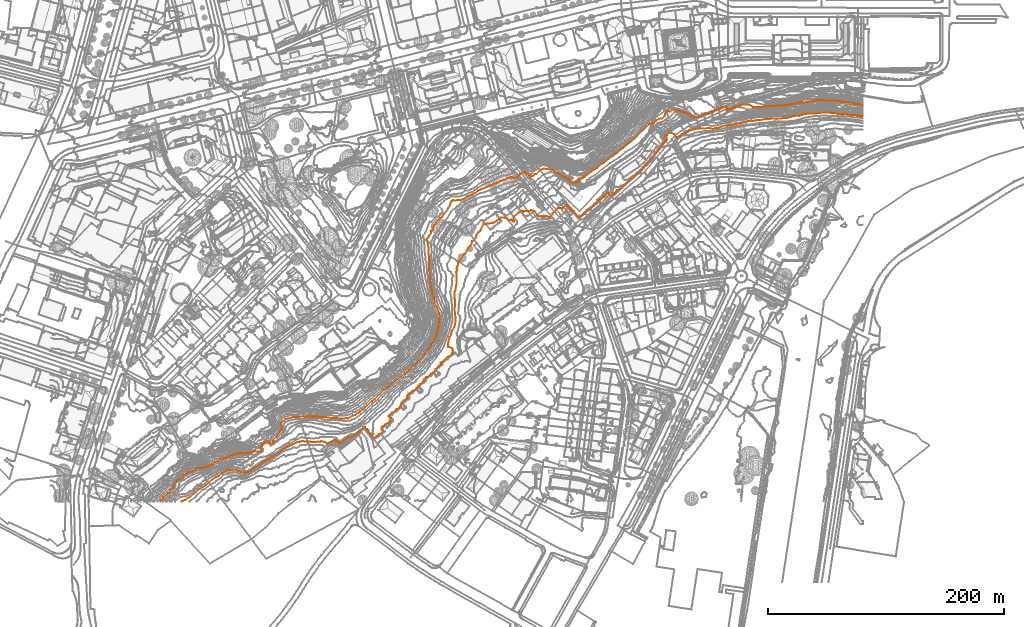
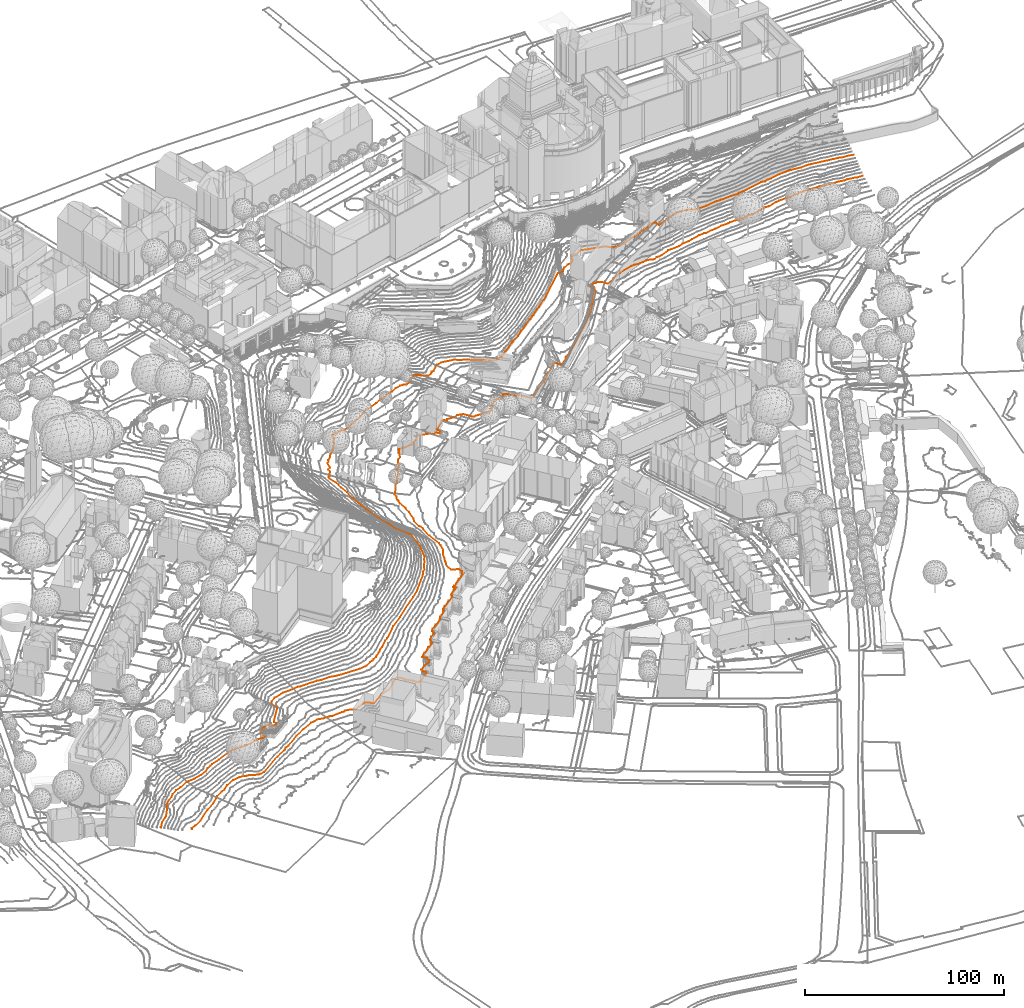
# Not in any storey, part 144 of 494: 2 proxies.
"""IFC2X3 model written with IfcOpenShell, lengths in metres."""

from ifc_helpers import new_model, entity, si_unit, frame, origin_with_axes, place, context, subcontext, project, element, save


model = new_model("IFC2X3")

# Units and contexts
model_context = context("Model", 3, precision=1e-05, world=origin_with_axes())
body_context = subcontext(model_context, "Body", "Model", "MODEL_VIEW")
ifc_project = project(units=[si_unit("AREAUNIT", "SQUARE_METRE"), si_unit("LENGTHUNIT", "METRE")], contexts=[model_context])

# Proxies
proxy_1_placement = place(None, frame((110.3940520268, -1.3292839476, 510.0), z_axis=(0.0, 0.0, 1.0), x_axis=(1.0, 0.0, 0.0)))
element("IfcBuildingElementProxy", 1, at=proxy_1_placement, Name="Contour Line 510.0 m", ObjectType="NOTDEFINED", context=body_context, shape_type="GeometricCurveSet", body=[
    entity("IfcGeometricCurveSet", [entity("IfcPolyline", [entity("IfcCartesianPoint", [577.7836799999, 326.7669789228, 0.0]), entity("IfcCartesianPoint", [574.2836799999, 326.7363557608, 0.0]), entity("IfcCartesianPoint", [573.2836799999, 327.2313932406, 0.0]), entity("IfcCartesianPoint", [569.2836799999, 327.7777656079, 0.0]), entity("IfcCartesianPoint", [567.2836799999, 327.7127699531, 0.0]), entity("IfcCartesianPoint", [564.2836799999, 328.3442526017, 0.0]), entity("IfcCartesianPoint", [556.2836799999, 328.6781323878, 0.0]), entity("IfcCartesianPoint", [554.2836799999, 329.5266267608, 0.0]), entity("IfcCartesianPoint", [551.2836799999, 329.3858442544, 0.0]), entity("IfcCartesianPoint", [548.2836799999, 329.7452839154, 0.0]), entity("IfcCartesianPoint", [543.2836799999, 329.7, 0.0]), entity("IfcCartesianPoint", [539.2836799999, 329.479507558, 0.0]), entity("IfcCartesianPoint", [537.2836799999, 328.9265868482, 0.0]), entity("IfcCartesianPoint", [530.2836799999, 328.789107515, 0.0]), entity("IfcCartesianPoint", [528.3040771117, 328.5, 0.0]), entity("IfcCartesianPoint", [523.2836799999, 327.066602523, 0.0]), entity("IfcCartesianPoint", [521.2836799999, 327.222120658, 0.0]), entity("IfcCartesianPoint", [518.2836799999, 326.7642361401, 0.0]), entity("IfcCartesianPoint", [513.2836799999, 325.1437253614, 0.0]), entity("IfcCartesianPoint", [511.2836799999, 325.0544992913, 0.0]), entity("IfcCartesianPoint", [510.2836799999, 325.4523024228, 0.0]), entity("IfcCartesianPoint", [508.2836799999, 324.7692546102, 0.0]), entity("IfcCartesianPoint", [506.2836799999, 324.5548365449, 0.0]), entity("IfcCartesianPoint", [505.2836799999, 324.789287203, 0.0]), entity("IfcCartesianPoint", [504.2836799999, 324.4523084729, 0.0]), entity("IfcCartesianPoint", [502.2836799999, 324.9163976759, 0.0]), entity("IfcCartesianPoint", [499.2836799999, 324.6900641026, 0.0]), entity("IfcCartesianPoint", [498.2836799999, 324.3695863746, 0.0]), entity("IfcCartesianPoint", [494.2836799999, 324.3192395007, 0.0]), entity("IfcCartesianPoint", [490.2836799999, 323.416148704, 0.0]), entity("IfcCartesianPoint", [487.2836799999, 323.2964714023, 0.0]), entity("IfcCartesianPoint", [484.2836799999, 322.6005133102, 0.0]), entity("IfcCartesianPoint", [483.2836799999, 322.9277991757, 0.0]), entity("IfcCartesianPoint", [480.2836799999, 322.5326086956, 0.0]), entity("IfcCartesianPoint", [475.4557765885, 321.5, 0.0]), entity("IfcCartesianPoint", [473.2836799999, 320.7614421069, 0.0]), entity("IfcCartesianPoint", [469.2836799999, 320.4181371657, 0.0]), entity("IfcCartesianPoint", [466.7329553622, 319.5, 0.0]), entity("IfcCartesianPoint", [462.2836799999, 318.9413965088, 0.0]), entity("IfcCartesianPoint", [460.2836799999, 318.9672734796, 0.0]), entity("IfcCartesianPoint", [455.2836799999, 316.9868456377, 0.0]), entity("IfcCartesianPoint", [453.2836799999, 316.5242144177, 0.0]), entity("IfcCartesianPoint", [452.2836799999, 316.7693165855, 0.0]), entity("IfcCartesianPoint", [450.2836799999, 315.6243574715, 0.0]), entity("IfcCartesianPoint", [448.2836799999, 316.4707380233, 0.0]), entity("IfcCartesianPoint", [446.2836799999, 316.835152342, 0.0]), entity("IfcCartesianPoint", [444.2836799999, 316.3807059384, 0.0]), entity("IfcCartesianPoint", [441.2836799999, 316.1952743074, 0.0]), entity("IfcCartesianPoint", [439.2836799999, 316.5044080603, 0.0]), entity("IfcCartesianPoint", [437.2836799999, 316.322696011, 0.0]), entity("IfcCartesianPoint", [430.2836799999, 314.5551996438, 0.0]), entity("IfcCartesianPoint", [429.2836799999, 313.6448474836, 0.0]), entity("IfcCartesianPoint", [424.2836799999, 311.633938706, 0.0]), entity("IfcCartesianPoint", [422.2836799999, 310.0085699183, 0.0]), entity("IfcCartesianPoint", [419.2836799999, 308.8155286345, 0.0]), entity("IfcCartesianPoint", [418.3800540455, 310.5, 0.0]), entity("IfcCartesianPoint", [417.2836799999, 311.5084341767, 0.0]), entity("IfcCartesianPoint", [415.2836799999, 312.6206305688, 0.0]), entity("IfcCartesianPoint", [414.2836799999, 312.4916080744, 0.0]), entity("IfcCartesianPoint", [413.2836799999, 312.764098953, 0.0]), entity("IfcCartesianPoint", [411.2836799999, 310.8616551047, 0.0]), entity("IfcCartesianPoint", [410.2008664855, 310.5, 0.0]), entity("IfcCartesianPoint", [410.2584948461, 309.5, 0.0]), entity("IfcCartesianPoint", [410.9462468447, 308.5, 0.0]), entity("IfcCartesianPoint", [410.9724845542, 307.5, 0.0]), entity("IfcCartesianPoint", [409.9808860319, 305.5, 0.0]), entity("IfcCartesianPoint", [408.2836799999, 303.7046351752, 0.0]), entity("IfcCartesianPoint", [403.6646736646, 297.5, 0.0]), entity("IfcCartesianPoint", [393.7689650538, 285.5, 0.0]), entity("IfcCartesianPoint", [389.2836799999, 281.1501439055, 0.0]), entity("IfcCartesianPoint", [377.2836799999, 270.2683984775, 0.0]), entity("IfcCartesianPoint", [370.2836799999, 264.460807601, 0.0]), entity("IfcCartesianPoint", [369.2836799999, 263.9375782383, 0.0]), entity("IfcCartesianPoint", [368.8121370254, 263.5, 0.0]), entity("IfcCartesianPoint", [368.4382099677, 262.5, 0.0]), entity("IfcCartesianPoint", [367.2836799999, 261.3862745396, 0.0]), entity("IfcCartesianPoint", [366.2836799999, 260.9708987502, 0.0]), entity("IfcCartesianPoint", [364.4357134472, 259.5, 0.0]), entity("IfcCartesianPoint", [363.3389468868, 259.5, 0.0]), entity("IfcCartesianPoint", [361.907327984, 261.5, 0.0]), entity("IfcCartesianPoint", [361.2836799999, 261.8848020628, 0.0]), entity("IfcCartesianPoint", [358.2836799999, 259.6830010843, 0.0]), entity("IfcCartesianPoint", [357.2836799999, 258.2333138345, 0.0]), entity("IfcCartesianPoint", [354.2836799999, 256.3672271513, 0.0]), entity("IfcCartesianPoint", [353.2836799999, 255.4839335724, 0.0]), entity("IfcCartesianPoint", [352.8657751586, 254.5, 0.0]), entity("IfcCartesianPoint", [348.651875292, 250.5, 0.0]), entity("IfcCartesianPoint", [343.2836799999, 246.6326606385, 0.0]), entity("IfcCartesianPoint", [337.6255837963, 241.5, 0.0]), entity("IfcCartesianPoint", [336.5901996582, 241.5, 0.0]), entity("IfcCartesianPoint", [335.2836799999, 242.1197017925, 0.0]), entity("IfcCartesianPoint", [332.2836799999, 246.0546306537, 0.0]), entity("IfcCartesianPoint", [329.9327809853, 247.5, 0.0]), entity("IfcCartesianPoint", [329.8483025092, 248.5, 0.0]), entity("IfcCartesianPoint", [328.2357803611, 249.5, 0.0]), entity("IfcCartesianPoint", [327.2836799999, 250.6387567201, 0.0]), entity("IfcCartesianPoint", [326.2836799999, 251.0521917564, 0.0]), entity("IfcCartesianPoint", [325.2836799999, 250.8266576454, 0.0]), entity("IfcCartesianPoint", [323.2836799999, 248.904403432, 0.0]), entity("IfcCartesianPoint", [322.2836799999, 248.5010464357, 0.0]), entity("IfcCartesianPoint", [320.2836799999, 249.0571441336, 0.0]), entity("IfcCartesianPoint", [319.2836799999, 248.9402390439, 0.0]), entity("IfcCartesianPoint", [318.642635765, 248.5, 0.0]), entity("IfcCartesianPoint", [314.5530472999, 244.5, 0.0]), entity("IfcCartesianPoint", [314.3068471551, 243.5, 0.0]), entity("IfcCartesianPoint", [312.2836799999, 241.3627997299, 0.0]), entity("IfcCartesianPoint", [311.2836799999, 241.191755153, 0.0]), entity("IfcCartesianPoint", [309.2836799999, 241.9187003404, 0.0]), entity("IfcCartesianPoint", [306.2836799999, 241.6917665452, 0.0]), entity("IfcCartesianPoint", [304.2836799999, 241.9492137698, 0.0]), entity("IfcCartesianPoint", [303.2836799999, 241.7278828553, 0.0]), entity("IfcCartesianPoint", [302.2836799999, 242.1807493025, 0.0]), entity("IfcCartesianPoint", [299.2836799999, 246.2684630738, 0.0]), entity("IfcCartesianPoint", [296.2836799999, 247.0476590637, 0.0]), entity("IfcCartesianPoint", [294.2836799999, 246.0580046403, 0.0]), entity("IfcCartesianPoint", [293.2836799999, 246.4304552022, 0.0]), entity("IfcCartesianPoint", [292.2836799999, 246.2491626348, 0.0]), entity("IfcCartesianPoint", [290.2836799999, 246.4360632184, 0.0]), entity("IfcCartesianPoint", [289.2836799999, 245.3019607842, 0.0]), entity("IfcCartesianPoint", [288.63953157, 246.5, 0.0]), entity("IfcCartesianPoint", [287.2836799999, 246.8208041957, 0.0]), entity("IfcCartesianPoint", [281.5077059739, 241.5, 0.0]), entity("IfcCartesianPoint", [281.3451554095, 240.5, 0.0]), entity("IfcCartesianPoint", [281.8093942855, 237.5, 0.0]), entity("IfcCartesianPoint", [281.2836799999, 237.2771197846, 0.0]), entity("IfcCartesianPoint", [280.2836799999, 238.3634204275, 0.0]), entity("IfcCartesianPoint", [279.2836799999, 238.9767844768, 0.0]), entity("IfcCartesianPoint", [278.2836799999, 238.5259879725, 0.0]), entity("IfcCartesianPoint", [277.2836799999, 238.7311155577, 0.0]), entity("IfcCartesianPoint", [276.2836799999, 239.9114502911, 0.0]), entity("IfcCartesianPoint", [272.2836799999, 240.9739934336, 0.0]), entity("IfcCartesianPoint", [271.2836799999, 240.9604374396, 0.0]), entity("IfcCartesianPoint", [270.2836799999, 240.7085462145, 0.0]), entity("IfcCartesianPoint", [269.2836799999, 240.0613516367, 0.0]), entity("IfcCartesianPoint", [267.2836799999, 238.2057826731, 0.0]), entity("IfcCartesianPoint", [264.2836799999, 236.3823067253, 0.0]), entity("IfcCartesianPoint", [259.2836799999, 235.6501711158, 0.0]), entity("IfcCartesianPoint", [258.2836799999, 235.8778004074, 0.0]), entity("IfcCartesianPoint", [256.2836799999, 235.7762333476, 0.0]), entity("IfcCartesianPoint", [255.8634116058, 235.5, 0.0]), entity("IfcCartesianPoint", [253.0965344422, 229.5, 0.0]), entity("IfcCartesianPoint", [251.2836799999, 228.2091656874, 0.0]), entity("IfcCartesianPoint", [250.1787381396, 226.5, 0.0]), entity("IfcCartesianPoint", [249.0941987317, 223.5, 0.0]), entity("IfcCartesianPoint", [247.2836799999, 221.4758928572, 0.0]), entity("IfcCartesianPoint", [246.2836799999, 220.9092465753, 0.0]), entity("IfcCartesianPoint", [245.6120382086, 218.5, 0.0]), entity("IfcCartesianPoint", [244.4227876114, 216.5, 0.0]), entity("IfcCartesianPoint", [243.1567807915, 215.5, 0.0]), entity("IfcCartesianPoint", [241.7228167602, 212.5, 0.0]), entity("IfcCartesianPoint", [240.3370090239, 210.5, 0.0]), entity("IfcCartesianPoint", [239.2836799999, 210.0264120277, 0.0]), entity("IfcCartesianPoint", [235.2836799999, 203.4226904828, 0.0]), entity("IfcCartesianPoint", [234.4561455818, 202.5, 0.0]), entity("IfcCartesianPoint", [234.3808540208, 200.5, 0.0]), entity("IfcCartesianPoint", [233.6906493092, 199.5, 0.0]), entity("IfcCartesianPoint", [233.1740274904, 197.5, 0.0]), entity("IfcCartesianPoint", [233.3512597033, 196.5, 0.0]), entity("IfcCartesianPoint", [232.8370220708, 194.5, 0.0]), entity("IfcCartesianPoint", [233.1739829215, 189.5, 0.0]), entity("IfcCartesianPoint", [233.0512440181, 185.5, 0.0]), entity("IfcCartesianPoint", [232.0480336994, 179.5, 0.0]), entity("IfcCartesianPoint", [231.3065682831, 177.5, 0.0]), entity("IfcCartesianPoint", [231.2415221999, 172.5, 0.0]), entity("IfcCartesianPoint", [231.6637897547, 171.5, 0.0]), entity("IfcCartesianPoint", [231.7655725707, 169.5, 0.0]), entity("IfcCartesianPoint", [231.4440615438, 162.5, 0.0]), entity("IfcCartesianPoint", [232.3314152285, 154.5, 0.0]), entity("IfcCartesianPoint", [232.1377025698, 152.5, 0.0]), entity("IfcCartesianPoint", [231.3691933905, 148.5, 0.0]), entity("IfcCartesianPoint", [229.2836799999, 145.156663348, 0.0]), entity("IfcCartesianPoint", [228.199764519, 141.5, 0.0]), entity("IfcCartesianPoint", [227.1342481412, 139.5, 0.0]), entity("IfcCartesianPoint", [227.0685223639, 138.5, 0.0]), entity("IfcCartesianPoint", [226.2505929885, 136.5, 0.0]), entity("IfcCartesianPoint", [225.778428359, 133.5, 0.0]), entity("IfcCartesianPoint", [225.9803436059, 131.5, 0.0]), entity("IfcCartesianPoint", [226.2836799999, 131.1812479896, 0.0]), entity("IfcCartesianPoint", [229.2836799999, 130.1188466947, 0.0]), entity("IfcCartesianPoint", [229.8392355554, 129.5, 0.0]), entity("IfcCartesianPoint", [229.7735426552, 128.5, 0.0]), entity("IfcCartesianPoint", [230.1971551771, 127.5, 0.0]), entity("IfcCartesianPoint", [229.2836799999, 126.5430906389, 0.0]), entity("IfcCartesianPoint", [229.2160609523, 125.5, 0.0]), entity("IfcCartesianPoint", [227.1802517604, 123.5, 0.0]), entity("IfcCartesianPoint", [225.7541426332, 122.5, 0.0]), entity("IfcCartesianPoint", [225.2836799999, 122.4936468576, 0.0]), entity("IfcCartesianPoint", [222.1785204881, 119.5, 0.0]), entity("IfcCartesianPoint", [220.7957223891, 118.5, 0.0]), entity("IfcCartesianPoint", [220.2836799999, 118.4831184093, 0.0]), entity("IfcCartesianPoint", [219.3129257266, 117.5, 0.0]), entity("IfcCartesianPoint", [220.2838059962, 116.5, 0.0]), entity("IfcCartesianPoint", [218.9630075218, 115.5, 0.0]), entity("IfcCartesianPoint", [218.2836799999, 115.4268913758, 0.0]), entity("IfcCartesianPoint", [215.2836799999, 112.514488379, 0.0]), entity("IfcCartesianPoint", [215.2784851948, 111.5, 0.0]), entity("IfcCartesianPoint", [214.2836799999, 110.1564495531, 0.0]), entity("IfcCartesianPoint", [211.8779609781, 108.5, 0.0]), entity("IfcCartesianPoint", [211.2836799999, 108.4904201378, 0.0]), entity("IfcCartesianPoint", [208.0333989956, 105.5, 0.0]), entity("IfcCartesianPoint", [207.2836799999, 105.4844258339, 0.0]), entity("IfcCartesianPoint", [205.2871901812, 103.5, 0.0]), entity("IfcCartesianPoint", [205.1739197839, 102.5, 0.0]), entity("IfcCartesianPoint", [204.2891312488, 101.5, 0.0]), entity("IfcCartesianPoint", [202.2577262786, 99.5, 0.0]), entity("IfcCartesianPoint", [200.7014263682, 98.5, 0.0]), entity("IfcCartesianPoint", [199.6037858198, 96.5, 0.0]), entity("IfcCartesianPoint", [199.2836799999, 96.4969447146, 0.0]), entity("IfcCartesianPoint", [196.2836799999, 93.7531486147, 0.0]), entity("IfcCartesianPoint", [195.2836799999, 93.4926540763, 0.0]), entity("IfcCartesianPoint", [194.2836802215, 92.5, 0.0]), entity("IfcCartesianPoint", [192.2836799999, 91.5734265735, 0.0]), entity("IfcCartesianPoint", [190.9119829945, 89.5, 0.0]), entity("IfcCartesianPoint", [191.1563712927, 88.5, 0.0]), entity("IfcCartesianPoint", [190.9825810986, 87.5, 0.0]), entity("IfcCartesianPoint", [188.2836799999, 85.7916160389, 0.0]), entity("IfcCartesianPoint", [186.2837290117, 83.5, 0.0]), entity("IfcCartesianPoint", [185.6187382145, 80.5, 0.0]), entity("IfcCartesianPoint", [185.2836799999, 80.4978298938, 0.0]), entity("IfcCartesianPoint", [183.1454358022, 78.5, 0.0]), entity("IfcCartesianPoint", [182.2836799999, 78.4473413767, 0.0]), entity("IfcCartesianPoint", [179.1796092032, 75.5, 0.0]), entity("IfcCartesianPoint", [178.2836799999, 75.4279286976, 0.0]), entity("IfcCartesianPoint", [175.3194162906, 72.5, 0.0]), entity("IfcCartesianPoint", [176.9561814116, 70.5, 0.0]), entity("IfcCartesianPoint", [176.8713445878, 68.5, 0.0]), entity("IfcCartesianPoint", [176.3095979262, 67.5, 0.0]), entity("IfcCartesianPoint", [175.1287943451, 66.5, 0.0]), entity("IfcCartesianPoint", [172.2836799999, 65.4991094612, 0.0]), entity("IfcCartesianPoint", [169.2836799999, 62.9692343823, 0.0]), entity("IfcCartesianPoint", [169.2933348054, 61.5, 0.0]), entity("IfcCartesianPoint", [170.2887345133, 60.5, 0.0]), entity("IfcCartesianPoint", [170.3627266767, 59.5, 0.0]), entity("IfcCartesianPoint", [168.2836799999, 57.4561320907, 0.0]), entity("IfcCartesianPoint", [167.2836799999, 57.3195591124, 0.0]), entity("IfcCartesianPoint", [165.4036402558, 55.5, 0.0]), entity("IfcCartesianPoint", [163.8027508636, 54.5, 0.0]), entity("IfcCartesianPoint", [163.2836799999, 54.2742641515, 0.0]), entity("IfcCartesianPoint", [162.2836799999, 54.3816979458, 0.0]), entity("IfcCartesianPoint", [161.0823064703, 56.5, 0.0]), entity("IfcCartesianPoint", [158.1637828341, 59.5, 0.0]), entity("IfcCartesianPoint", [157.1149885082, 61.5, 0.0]), entity("IfcCartesianPoint", [155.2836799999, 63.376478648, 0.0]), entity("IfcCartesianPoint", [154.2836799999, 63.0262282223, 0.0]), entity("IfcCartesianPoint", [150.2836799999, 59.0628554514, 0.0]), entity("IfcCartesianPoint", [146.2836799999, 56.0095277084, 0.0]), entity("IfcCartesianPoint", [144.2836799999, 55.2670542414, 0.0]), entity("IfcCartesianPoint", [141.2836799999, 54.6436326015, 0.0]), entity("IfcCartesianPoint", [134.2836799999, 49.5531370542, 0.0]), entity("IfcCartesianPoint", [133.2836799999, 49.9550752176, 0.0]), entity("IfcCartesianPoint", [132.2836799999, 50.9891848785, 0.0]), entity("IfcCartesianPoint", [130.2836799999, 52.1925983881, 0.0]), entity("IfcCartesianPoint", [129.2836799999, 52.0323445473, 0.0]), entity("IfcCartesianPoint", [123.2836799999, 49.4648133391, 0.0]), entity("IfcCartesianPoint", [121.2836799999, 50.6211346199, 0.0]), entity("IfcCartesianPoint", [118.2836799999, 51.2498813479, 0.0]), entity("IfcCartesianPoint", [117.2836799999, 50.624030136, 0.0]), entity("IfcCartesianPoint", [116.2836799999, 50.863098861, 0.0]), entity("IfcCartesianPoint", [110.2836799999, 50.4154889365, 0.0]), entity("IfcCartesianPoint", [109.2836799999, 50.7448965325, 0.0]), entity("IfcCartesianPoint", [105.2836799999, 50.8666201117, 0.0]), entity("IfcCartesianPoint", [102.2836799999, 51.4206705, 0.0]), entity("IfcCartesianPoint", [100.2836799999, 50.7785874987, 0.0]), entity("IfcCartesianPoint", [98.2836799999, 50.5271245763, 0.0]), entity("IfcCartesianPoint", [92.2836799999, 47.7002538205, 0.0]), entity("IfcCartesianPoint", [86.2836799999, 44.4179323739, 0.0]), entity("IfcCartesianPoint", [78.2836799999, 38.7993949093, 0.0]), entity("IfcCartesianPoint", [76.2836799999, 38.0820981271, 0.0]), entity("IfcCartesianPoint", [74.8856596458, 36.5, 0.0]), entity("IfcCartesianPoint", [68.8334551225, 33.5, 0.0]), entity("IfcCartesianPoint", [56.2836799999, 25.0034428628, 0.0]), entity("IfcCartesianPoint", [53.2836799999, 24.3866336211, 0.0]), entity("IfcCartesianPoint", [50.2836799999, 25.2345808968, 0.0]), entity("IfcCartesianPoint", [48.2836799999, 26.4942008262, 0.0]), entity("IfcCartesianPoint", [47.2836799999, 26.3473063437, 0.0]), entity("IfcCartesianPoint", [45.2836799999, 27.0523025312, 0.0]), entity("IfcCartesianPoint", [43.2836799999, 27.2379372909, 0.0]), entity("IfcCartesianPoint", [39.2836799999, 26.6669181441, 0.0]), entity("IfcCartesianPoint", [34.2836799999, 24.2291846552, 0.0]), entity("IfcCartesianPoint", [31.2836799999, 21.625360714, 0.0]), entity("IfcCartesianPoint", [29.2836799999, 20.8521467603, 0.0]), entity("IfcCartesianPoint", [25.2915054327, 18.5, 0.0]), entity("IfcCartesianPoint", [20.2836799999, 13.8110305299, 0.0]), entity("IfcCartesianPoint", [15.2836799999, 10.839507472, 0.0]), entity("IfcCartesianPoint", [7.2836799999, 4.1190602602, 0.0]), entity("IfcCartesianPoint", [2.7371754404, 1.5, 0.0]), entity("IfcCartesianPoint", [0.2836799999, 0.6716027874, 0.0]), entity("IfcCartesianPoint", [0.0, 0.5, 0.0]), entity("IfcCartesianPoint", [0.0, 0.0, 0.0])])]),
])
proxy_2_placement = place(None, frame((92.3896694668, -1.3292839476, 517.0), z_axis=(0.0, 0.0, 1.0), x_axis=(1.0, 0.0, 0.0)))
element("IfcBuildingElementProxy", 2, at=proxy_2_placement, Name="Contour Line 517.0 m", ObjectType="NOTDEFINED", context=body_context, shape_type="GeometricCurveSet", body=[
    entity("IfcGeometricCurveSet", [entity("IfcPolyline", [entity("IfcCartesianPoint", [595.7880625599, 336.1942220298, 0.0]), entity("IfcCartesianPoint", [593.2880625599, 336.7965341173, 0.0]), entity("IfcCartesianPoint", [589.2880625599, 337.0710653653, 0.0]), entity("IfcCartesianPoint", [588.2880625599, 337.5476312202, 0.0]), entity("IfcCartesianPoint", [572.2880625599, 339.8930996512, 0.0]), entity("IfcCartesianPoint", [570.2880625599, 340.0643234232, 0.0]), entity("IfcCartesianPoint", [567.2880625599, 339.8412961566, 0.0]), entity("IfcCartesianPoint", [561.2880625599, 340.3769964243, 0.0]), entity("IfcCartesianPoint", [554.2880625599, 340.110895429, 0.0]), entity("IfcCartesianPoint", [549.2880625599, 339.0159686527, 0.0]), entity("IfcCartesianPoint", [547.2880625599, 338.8611859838, 0.0]), entity("IfcCartesianPoint", [545.2880625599, 338.0165509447, 0.0]), entity("IfcCartesianPoint", [544.2880625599, 338.576481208, 0.0]), entity("IfcCartesianPoint", [543.2880625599, 338.6394981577, 0.0]), entity("IfcCartesianPoint", [535.2880625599, 336.9249316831, 0.0]), entity("IfcCartesianPoint", [529.2880625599, 336.0643457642, 0.0]), entity("IfcCartesianPoint", [528.2880625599, 335.648951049, 0.0]), entity("IfcCartesianPoint", [524.2880625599, 335.7884357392, 0.0]), entity("IfcCartesianPoint", [518.2880625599, 335.3058192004, 0.0]), entity("IfcCartesianPoint", [515.2880625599, 335.376165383, 0.0]), entity("IfcCartesianPoint", [509.2880625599, 334.4962450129, 0.0]), entity("IfcCartesianPoint", [503.2880625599, 334.3103206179, 0.0]), entity("IfcCartesianPoint", [502.4639649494, 334.5, 0.0]), entity("IfcCartesianPoint", [501.2524210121, 335.5, 0.0]), entity("IfcCartesianPoint", [499.2880625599, 336.20316253, 0.0]), entity("IfcCartesianPoint", [496.2880625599, 336.8085126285, 0.0]), entity("IfcCartesianPoint", [493.2880625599, 336.6635540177, 0.0]), entity("IfcCartesianPoint", [486.2880625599, 334.4122684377, 0.0]), entity("IfcCartesianPoint", [484.2880625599, 333.3027825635, 0.0]), entity("IfcCartesianPoint", [481.2880625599, 332.1711702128, 0.0]), entity("IfcCartesianPoint", [480.2880625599, 331.4777163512, 0.0]), entity("IfcCartesianPoint", [480.0089141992, 333.5, 0.0]), entity("IfcCartesianPoint", [479.5804265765, 334.5, 0.0]), entity("IfcCartesianPoint", [477.2880625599, 335.0441732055, 0.0]), entity("IfcCartesianPoint", [475.2880625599, 333.9338482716, 0.0]), entity("IfcCartesianPoint", [474.2880625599, 333.0165675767, 0.0]), entity("IfcCartesianPoint", [472.3786531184, 332.5, 0.0]), entity("IfcCartesianPoint", [471.2880625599, 331.8416211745, 0.0]), entity("IfcCartesianPoint", [470.2880625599, 331.7496544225, 0.0]), entity("IfcCartesianPoint", [468.2880625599, 330.4268066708, 0.0]), entity("IfcCartesianPoint", [467.2880625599, 330.5436743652, 0.0]), entity("IfcCartesianPoint", [464.2880625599, 329.0776801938, 0.0]), entity("IfcCartesianPoint", [462.2880625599, 328.7313370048, 0.0]), entity("IfcCartesianPoint", [457.2880625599, 326.5101483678, 0.0]), entity("IfcCartesianPoint", [456.2880625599, 326.57920118, 0.0]), entity("IfcCartesianPoint", [454.2880625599, 325.8349641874, 0.0]), entity("IfcCartesianPoint", [450.8064750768, 326.5, 0.0]), entity("IfcCartesianPoint", [449.2880625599, 327.3509250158, 0.0]), entity("IfcCartesianPoint", [447.2880625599, 329.1097059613, 0.0]), entity("IfcCartesianPoint", [434.2880625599, 332.5326705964, 0.0]), entity("IfcCartesianPoint", [432.2880625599, 330.6647940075, 0.0]), entity("IfcCartesianPoint", [430.2880625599, 330.949499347, 0.0]), entity("IfcCartesianPoint", [428.829094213, 330.5, 0.0]), entity("IfcCartesianPoint", [427.7871126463, 328.5, 0.0]), entity("IfcCartesianPoint", [427.2880625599, 326.7573284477, 0.0]), entity("IfcCartesianPoint", [425.2880625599, 324.7727457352, 0.0]), entity("IfcCartesianPoint", [423.2880625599, 324.8893832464, 0.0]), entity("IfcCartesianPoint", [420.2880625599, 323.1778447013, 0.0]), entity("IfcCartesianPoint", [418.2880625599, 320.8132942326, 0.0]), entity("IfcCartesianPoint", [416.2880625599, 320.4103879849, 0.0]), entity("IfcCartesianPoint", [415.2880625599, 320.5304259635, 0.0]), entity("IfcCartesianPoint", [414.2880625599, 319.9518025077, 0.0]), entity("IfcCartesianPoint", [399.2880625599, 305.5817648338, 0.0]), entity("IfcCartesianPoint", [397.2880625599, 303.9687790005, 0.0]), entity("IfcCartesianPoint", [396.2880625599, 303.5719854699, 0.0]), entity("IfcCartesianPoint", [392.2880625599, 299.8097723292, 0.0]), entity("IfcCartesianPoint", [390.1056664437, 298.5, 0.0]), entity("IfcCartesianPoint", [386.2880625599, 294.9423970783, 0.0]), entity("IfcCartesianPoint", [385.2880625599, 294.6391885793, 0.0]), entity("IfcCartesianPoint", [383.2880625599, 292.9304471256, 0.0]), entity("IfcCartesianPoint", [382.2880625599, 292.5762170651, 0.0]), entity("IfcCartesianPoint", [376.2880625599, 287.5353565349, 0.0]), entity("IfcCartesianPoint", [374.0962217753, 286.5, 0.0]), entity("IfcCartesianPoint", [370.2880625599, 282.8481560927, 0.0]), entity("IfcCartesianPoint", [366.2880625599, 280.8840539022, 0.0]), entity("IfcCartesianPoint", [365.2880625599, 279.7413958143, 0.0]), entity("IfcCartesianPoint", [364.6352798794, 279.5, 0.0]), entity("IfcCartesianPoint", [359.2880625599, 275.076967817, 0.0]), entity("IfcCartesianPoint", [357.7401355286, 274.5, 0.0]), entity("IfcCartesianPoint", [356.2880625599, 272.8636505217, 0.0]), entity("IfcCartesianPoint", [355.2880625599, 272.5082463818, 0.0]), entity("IfcCartesianPoint", [354.4923256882, 271.5, 0.0]), entity("IfcCartesianPoint", [351.2880625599, 270.672955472, 0.0]), entity("IfcCartesianPoint", [350.2880625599, 269.901623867, 0.0]), entity("IfcCartesianPoint", [347.8846132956, 271.5, 0.0]), entity("IfcCartesianPoint", [346.2880625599, 273.1532011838, 0.0]), entity("IfcCartesianPoint", [343.2880625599, 274.3975454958, 0.0]), entity("IfcCartesianPoint", [342.2880625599, 275.2005241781, 0.0]), entity("IfcCartesianPoint", [339.669014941, 276.5, 0.0]), entity("IfcCartesianPoint", [338.2880625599, 277.8063788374, 0.0]), entity("IfcCartesianPoint", [334.2880625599, 279.6820739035, 0.0]), entity("IfcCartesianPoint", [332.2880625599, 281.090730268, 0.0]), entity("IfcCartesianPoint", [325.2880625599, 282.3312945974, 0.0]), entity("IfcCartesianPoint", [322.7136791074, 281.5, 0.0]), entity("IfcCartesianPoint", [321.2352897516, 280.5, 0.0]), entity("IfcCartesianPoint", [318.2880625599, 277.7304038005, 0.0]), entity("IfcCartesianPoint", [317.2880625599, 277.5678180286, 0.0]), entity("IfcCartesianPoint", [316.2880625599, 276.3671241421, 0.0]), entity("IfcCartesianPoint", [314.2880625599, 275.6671913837, 0.0]), entity("IfcCartesianPoint", [311.2880625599, 277.2155762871, 0.0]), entity("IfcCartesianPoint", [308.2880625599, 279.5859110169, 0.0]), entity("IfcCartesianPoint", [307.7586891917, 279.5, 0.0]), entity("IfcCartesianPoint", [305.0471403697, 277.5, 0.0]), entity("IfcCartesianPoint", [303.3041915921, 275.5, 0.0]), entity("IfcCartesianPoint", [301.2880625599, 274.5558856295, 0.0]), entity("IfcCartesianPoint", [300.2880625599, 274.3481375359, 0.0]), entity("IfcCartesianPoint", [299.2880625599, 274.8756849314, 0.0]), entity("IfcCartesianPoint", [297.2880625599, 274.9988780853, 0.0]), entity("IfcCartesianPoint", [294.2880625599, 274.257607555, 0.0]), entity("IfcCartesianPoint", [291.2880625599, 272.5527577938, 0.0]), entity("IfcCartesianPoint", [288.2880625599, 271.9635509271, 0.0]), entity("IfcCartesianPoint", [285.2880625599, 270.2425162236, 0.0]), entity("IfcCartesianPoint", [282.6668346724, 269.5, 0.0]), entity("IfcCartesianPoint", [279.2880625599, 267.8038486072, 0.0]), entity("IfcCartesianPoint", [272.2880625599, 265.1057869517, 0.0]), entity("IfcCartesianPoint", [269.2880625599, 263.5384197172, 0.0]), entity("IfcCartesianPoint", [266.4798224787, 261.5, 0.0]), entity("IfcCartesianPoint", [260.2880625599, 258.6261093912, 0.0]), entity("IfcCartesianPoint", [256.2880625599, 256.0586528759, 0.0]), entity("IfcCartesianPoint", [250.2880625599, 255.3581116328, 0.0]), entity("IfcCartesianPoint", [248.1979265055, 255.5, 0.0]), entity("IfcCartesianPoint", [247.2880625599, 254.6314935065, 0.0]), entity("IfcCartesianPoint", [246.2880625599, 254.4396825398, 0.0]), entity("IfcCartesianPoint", [245.5054538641, 251.5, 0.0]), entity("IfcCartesianPoint", [244.160691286, 249.5, 0.0]), entity("IfcCartesianPoint", [243.3848666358, 247.5, 0.0]), entity("IfcCartesianPoint", [239.3720089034, 242.5, 0.0]), entity("IfcCartesianPoint", [238.9920189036, 241.5, 0.0]), entity("IfcCartesianPoint", [237.0987228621, 240.5, 0.0]), entity("IfcCartesianPoint", [235.630060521, 238.5, 0.0]), entity("IfcCartesianPoint", [233.5764478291, 236.5, 0.0]), entity("IfcCartesianPoint", [233.1251768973, 235.5, 0.0]), entity("IfcCartesianPoint", [231.9499781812, 234.5, 0.0]), entity("IfcCartesianPoint", [231.0520331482, 230.5, 0.0]), entity("IfcCartesianPoint", [229.5393806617, 229.5, 0.0]), entity("IfcCartesianPoint", [229.4444155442, 227.5, 0.0]), entity("IfcCartesianPoint", [227.7859878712, 225.5, 0.0]), entity("IfcCartesianPoint", [227.2880625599, 224.2717206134, 0.0]), entity("IfcCartesianPoint", [226.2880625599, 223.5761179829, 0.0]), entity("IfcCartesianPoint", [226.0975863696, 222.5, 0.0]), entity("IfcCartesianPoint", [227.322105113, 215.5, 0.0]), entity("IfcCartesianPoint", [227.2158076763, 212.5, 0.0]), entity("IfcCartesianPoint", [227.6967248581, 207.5, 0.0]), entity("IfcCartesianPoint", [227.5891275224, 201.5, 0.0]), entity("IfcCartesianPoint", [228.0641803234, 193.5, 0.0]), entity("IfcCartesianPoint", [229.4277944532, 182.5, 0.0]), entity("IfcCartesianPoint", [230.8100525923, 176.5, 0.0]), entity("IfcCartesianPoint", [231.8700527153, 173.5, 0.0]), entity("IfcCartesianPoint", [232.528373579, 168.5, 0.0]), entity("IfcCartesianPoint", [236.6905446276, 159.5, 0.0]), entity("IfcCartesianPoint", [236.936628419, 157.5, 0.0]), entity("IfcCartesianPoint", [235.7029296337, 147.5, 0.0]), entity("IfcCartesianPoint", [233.3544804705, 139.5, 0.0]), entity("IfcCartesianPoint", [231.9846286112, 137.5, 0.0]), entity("IfcCartesianPoint", [231.0404587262, 135.5, 0.0]), entity("IfcCartesianPoint", [229.2880625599, 133.0904353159, 0.0]), entity("IfcCartesianPoint", [227.5339086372, 129.5, 0.0]), entity("IfcCartesianPoint", [226.1806862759, 128.5, 0.0]), entity("IfcCartesianPoint", [224.2431176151, 125.5, 0.0]), entity("IfcCartesianPoint", [215.1377015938, 115.5, 0.0]), entity("IfcCartesianPoint", [210.6638958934, 111.5, 0.0]), entity("IfcCartesianPoint", [207.2880625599, 109.0759359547, 0.0]), entity("IfcCartesianPoint", [196.0100547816, 99.5, 0.0]), entity("IfcCartesianPoint", [189.2880625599, 94.5504561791, 0.0]), entity("IfcCartesianPoint", [181.2880625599, 86.7234445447, 0.0]), entity("IfcCartesianPoint", [179.2880625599, 85.4424452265, 0.0]), entity("IfcCartesianPoint", [175.2880625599, 81.5117500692, 0.0]), entity("IfcCartesianPoint", [173.2880625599, 80.1278032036, 0.0]), entity("IfcCartesianPoint", [171.2880625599, 77.8911445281, 0.0]), entity("IfcCartesianPoint", [169.2098384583, 76.5, 0.0]), entity("IfcCartesianPoint", [168.2880625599, 75.4515142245, 0.0]), entity("IfcCartesianPoint", [166.3406795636, 74.5, 0.0]), entity("IfcCartesianPoint", [165.2880625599, 73.5599411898, 0.0]), entity("IfcCartesianPoint", [163.2880625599, 73.0368088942, 0.0]), entity("IfcCartesianPoint", [160.2880625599, 71.2279060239, 0.0]), entity("IfcCartesianPoint", [156.2880625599, 70.5267187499, 0.0]), entity("IfcCartesianPoint", [148.2880625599, 70.7085127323, 0.0]), entity("IfcCartesianPoint", [142.2880625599, 71.2063819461, 0.0]), entity("IfcCartesianPoint", [139.2880625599, 71.9068367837, 0.0]), entity("IfcCartesianPoint", [134.2880625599, 71.7283376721, 0.0]), entity("IfcCartesianPoint", [132.2880625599, 72.1503067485, 0.0]), entity("IfcCartesianPoint", [122.2880625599, 72.2579508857, 0.0]), entity("IfcCartesianPoint", [121.2880625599, 72.5350482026, 0.0]), entity("IfcCartesianPoint", [117.2880625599, 71.7996395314, 0.0]), entity("IfcCartesianPoint", [112.2880625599, 71.7480753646, 0.0]), entity("IfcCartesianPoint", [106.2880625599, 69.887575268, 0.0]), entity("IfcCartesianPoint", [103.2880625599, 67.8822625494, 0.0]), entity("IfcCartesianPoint", [102.35611394, 66.5, 0.0]), entity("IfcCartesianPoint", [102.9188442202, 61.5, 0.0]), entity("IfcCartesianPoint", [95.8271743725, 52.5, 0.0]), entity("IfcCartesianPoint", [95.243555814, 51.5, 0.0]), entity("IfcCartesianPoint", [95.876364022, 50.5, 0.0]), entity("IfcCartesianPoint", [95.3336005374, 49.5, 0.0]), entity("IfcCartesianPoint", [93.2880625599, 49.096278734, 0.0]), entity("IfcCartesianPoint", [91.2880625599, 50.9686742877, 0.0]), entity("IfcCartesianPoint", [89.2880625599, 50.7145359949, 0.0]), entity("IfcCartesianPoint", [87.2880625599, 49.8496264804, 0.0]), entity("IfcCartesianPoint", [86.0382291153, 48.5, 0.0]), entity("IfcCartesianPoint", [85.2105910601, 46.5, 0.0]), entity("IfcCartesianPoint", [85.5226622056, 45.5, 0.0]), entity("IfcCartesianPoint", [85.2880625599, 42.8301996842, 0.0]), entity("IfcCartesianPoint", [84.2880625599, 42.4384446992, 0.0]), entity("IfcCartesianPoint", [80.2880625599, 42.7249720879, 0.0]), entity("IfcCartesianPoint", [75.2880625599, 41.2077767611, 0.0]), entity("IfcCartesianPoint", [71.2880625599, 40.9052068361, 0.0]), entity("IfcCartesianPoint", [67.2880625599, 41.1133467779, 0.0]), entity("IfcCartesianPoint", [63.2880625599, 40.5633039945, 0.0]), entity("IfcCartesianPoint", [55.2880625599, 37.1662840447, 0.0]), entity("IfcCartesianPoint", [50.1744848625, 35.5, 0.0]), entity("IfcCartesianPoint", [48.7538913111, 34.5, 0.0]), entity("IfcCartesianPoint", [46.3528773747, 33.5, 0.0]), entity("IfcCartesianPoint", [44.1067228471, 31.5, 0.0]), entity("IfcCartesianPoint", [40.2880625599, 29.9607027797, 0.0]), entity("IfcCartesianPoint", [36.2880625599, 28.7982256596, 0.0]), entity("IfcCartesianPoint", [31.2880625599, 28.2830954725, 0.0]), entity("IfcCartesianPoint", [26.2880625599, 25.640637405, 0.0]), entity("IfcCartesianPoint", [23.0434548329, 24.5, 0.0]), entity("IfcCartesianPoint", [19.7235239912, 22.5, 0.0]), entity("IfcCartesianPoint", [17.9609002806, 20.5, 0.0]), entity("IfcCartesianPoint", [15.2880625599, 18.7899875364, 0.0]), entity("IfcCartesianPoint", [13.9072862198, 17.5, 0.0]), entity("IfcCartesianPoint", [12.1032806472, 15.5, 0.0]), entity("IfcCartesianPoint", [10.9260595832, 12.5, 0.0]), entity("IfcCartesianPoint", [9.2748235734, 10.5, 0.0]), entity("IfcCartesianPoint", [7.4369055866, 7.5, 0.0]), entity("IfcCartesianPoint", [6.2880625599, 6.8172868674, 0.0]), entity("IfcCartesianPoint", [2.6765106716, 3.5, 0.0]), entity("IfcCartesianPoint", [1.1386020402, 1.5, 0.0]), entity("IfcCartesianPoint", [0.0, 0.5, 0.0]), entity("IfcCartesianPoint", [0.0, 0.0, 0.0])])]),
])

save(model, "model.ifc")
